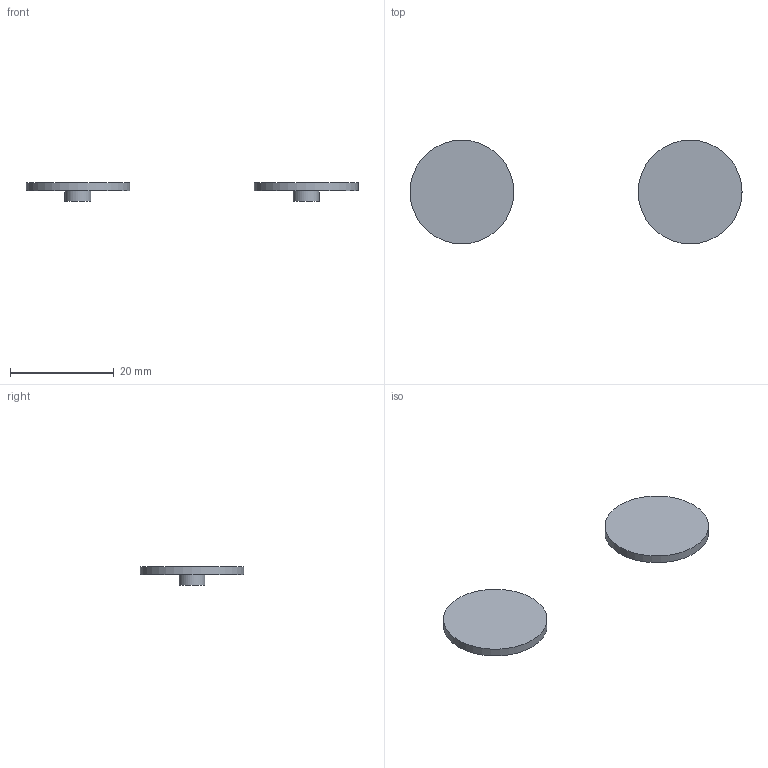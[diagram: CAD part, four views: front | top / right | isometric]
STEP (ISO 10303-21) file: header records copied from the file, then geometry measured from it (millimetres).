
FILE_DESCRIPTION(('Open CASCADE Model'),'2;1');
FILE_NAME('Open CASCADE Shape Model','2026-09-29T12:47:59',('Author'),( 'Open CASCADE'),'Open CASCADE STEP processor 7.9','Open CASCADE 7.9' ,'Unknown');
FILE_SCHEMA(('AUTOMOTIVE_DESIGN { 1 0 10303 214 1 1 1 1 }'));
Length unit declared in the file: millimetre
Products named in the file (3): Open CASCADE STEP translator 7.9 18; Open CASCADE STEP translator 7.9 18.1; Open CASCADE STEP translator 7.9 18.2
Assembly tree (2 placements, depth 2):
  Open CASCADE STEP translator 7.9 18
    Open CASCADE STEP translator 7.9 18.1
    Open CASCADE STEP translator 7.9 18.2
Bounding box: 64 x 20 x 3.6 mm (x, y, z)
Volume: 1083.8 mm3; surface area: 1520.5 mm2
Topology: 2 solids, 2 shells, 10 faces, 12 edges, 8 vertices
Faces by surface type: plane 6, cylinder 4
Full cylindrical faces by diameter (mm): 5 x2, 20 x2
Entity records: 404 total; most frequent: DIRECTION 70, CARTESIAN_POINT 57, ORIENTED_EDGE 24, PCURVE 24, DEFINITIONAL_REPRESENTATION 24, AXIS2_PLACEMENT_3D 21, LINE 20, VECTOR 20
